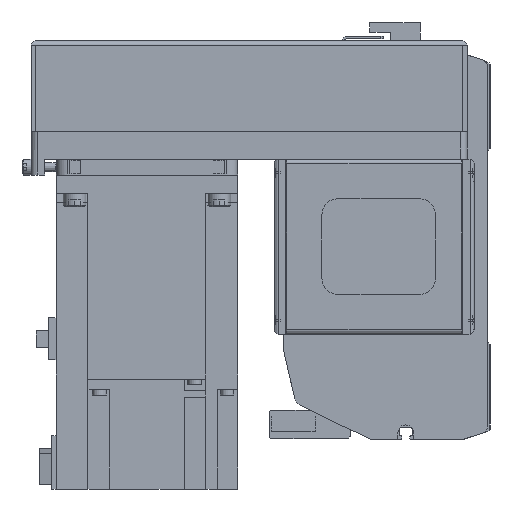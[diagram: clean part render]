
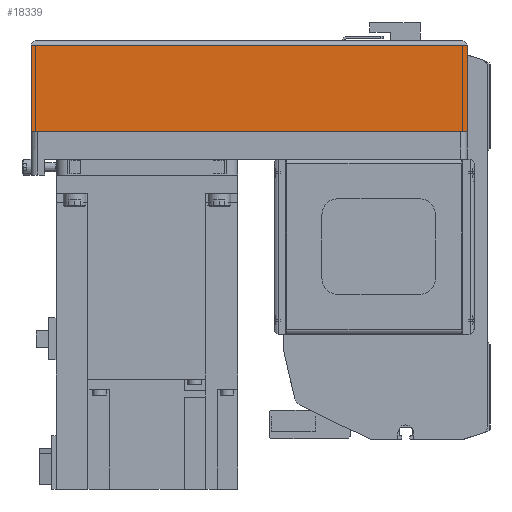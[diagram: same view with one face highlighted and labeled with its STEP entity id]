
A CAD part, left-side view. The second image highlights one B-rep face of the part: STEP entity #18339.
In plain terms, the highlighted planar face has unit normal (-1, 0, 0) as drawn and (0, 1, 0) by its records, which use the part's own axes.
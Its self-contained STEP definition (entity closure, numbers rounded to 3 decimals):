
#2856=ORIENTED_EDGE('',*,*,#7407,.F.);
#2857=ORIENTED_EDGE('',*,*,#7447,.F.);
#2858=ORIENTED_EDGE('',*,*,#7384,.T.);
#2859=ORIENTED_EDGE('',*,*,#7397,.T.);
#7384=EDGE_CURVE('',#9823,#9826,#11706,.T.);
#7397=EDGE_CURVE('',#9826,#9838,#11719,.T.);
#7407=EDGE_CURVE('',#9846,#9838,#11729,.T.);
#7447=EDGE_CURVE('',#9823,#9846,#11747,.T.);
#9823=VERTEX_POINT('',#28156);
#9826=VERTEX_POINT('',#28161);
#9838=VERTEX_POINT('',#28189);
#9846=VERTEX_POINT('',#28209);
#11706=LINE('',#28162,#13372);
#11719=LINE('',#28190,#13385);
#11729=LINE('',#28210,#13395);
#11747=LINE('',#28280,#13413);
#13372=VECTOR('',#22530,1000.);
#13385=VECTOR('',#22549,1000.);
#13395=VECTOR('',#22563,1000.);
#13413=VECTOR('',#22657,1000.);
#14895=EDGE_LOOP('',(#2856,#2857,#2858,#2859));
#16327=FACE_BOUND('',#14895,.T.);
#17592=PLANE('',#19662);
#18339=ADVANCED_FACE('',(#16327),#17592,.T.);
#19662=AXIS2_PLACEMENT_3D('',#28279,#22655,#22656);
#22530=DIRECTION('',(0.,0.,1.));
#22549=DIRECTION('',(1.,0.,0.));
#22563=DIRECTION('',(0.,0.,1.));
#22655=DIRECTION('',(0.,1.,0.));
#22656=DIRECTION('',(0.,0.,1.));
#22657=DIRECTION('',(1.,0.,0.));
#28156=CARTESIAN_POINT('',(-192.,40.,-50.));
#28161=CARTESIAN_POINT('',(-192.,40.,-12.1));
#28162=CARTESIAN_POINT('',(-192.,40.,-50.));
#28189=CARTESIAN_POINT('',(0.,40.,-12.1));
#28190=CARTESIAN_POINT('',(-192.,40.,-12.1));
#28209=CARTESIAN_POINT('',(0.,40.,-50.));
#28210=CARTESIAN_POINT('',(0.,40.,-50.));
#28279=CARTESIAN_POINT('',(-192.,40.,-50.));
#28280=CARTESIAN_POINT('',(-192.,40.,-50.));
